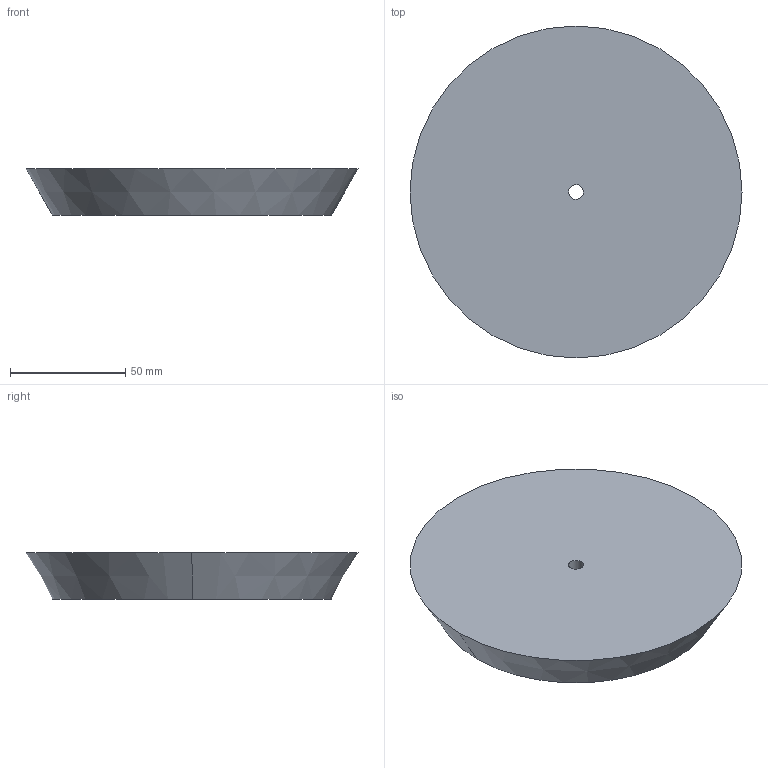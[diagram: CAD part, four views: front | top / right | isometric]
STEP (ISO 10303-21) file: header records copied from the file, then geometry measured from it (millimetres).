
FILE_DESCRIPTION(('CATIA V5 STEP Exchange'),'2;1');
FILE_NAME('C:\Users\andres.garcia\OneDrive - IQS\ASIGNATURAS\DAO\Controles\2223\c0\c1-LOPEZ_Dorima-tapon.stp','2023-02-03T08:22:05+00:00',('none'),('none'),'CATIA Version 5-6 Release 2013 SP6','CATIA V5 STEP AP203','none');
FILE_SCHEMA(('CONFIG_CONTROL_DESIGN'));
Length unit declared in the file: millimetre
Products named in the file (1): c1-LOPEZ_Dorima-tapon
Bounding box: 144 x 144 x 20 mm (x, y, z)
Volume: 275611.8 mm3; surface area: 37718.9 mm2
Topology: 1 solids, 1 shells, 6 faces, 12 edges, 8 vertices
Faces by surface type: cylinder 2, plane 2, cone 2
Entity records: 196 total; most frequent: CARTESIAN_POINT 26, ORIENTED_EDGE 24, DIRECTION 22, AXIS2_PLACEMENT_3D 14, EDGE_CURVE 12, CIRCLE 8, EDGE_LOOP 8, VERTEX_POINT 8
